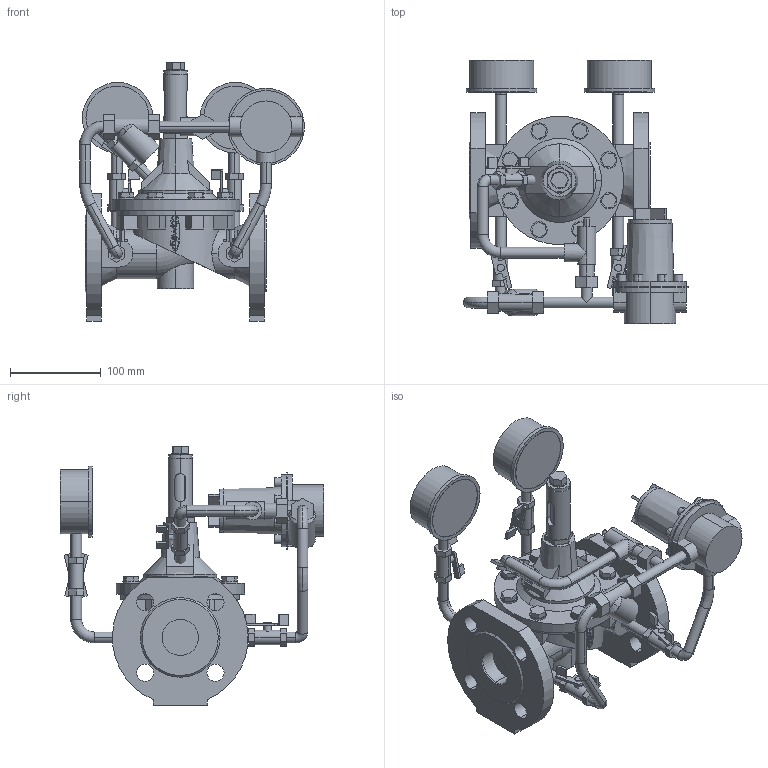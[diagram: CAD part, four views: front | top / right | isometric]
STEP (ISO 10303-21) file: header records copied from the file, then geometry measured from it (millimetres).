
FILE_DESCRIPTION(('STEP AP214'),'1');
FILE_NAME('S:/EK/USER/CAT6/3DHomepage_27-04-2012/CH-Produkte/1500/1500_PN16_DN40.STP','2013-01-18T08:35:29',(' '),(' '),'Spatial InterOp 3D',' ',' ');
FILE_SCHEMA(('automotive_design'));
Length unit declared in the file: millimetre
Products named in the file (175): 3D-Objekt
Bounding box: 248.45 x 290.92 x 285.8 mm (x, y, z)
Volume: 2678804.4 mm3; surface area: 582321.5 mm2
Topology: 175 solids, 175 shells, 1226 faces, 2636 edges, 1760 vertices
Faces by surface type: plane 853, cylinder 334, torus 20, cone 19
Entity records: 64272 total; most frequent: CARTESIAN_POINT 22957, DIRECTION 6181, ORIENTED_EDGE 5274, EDGE_CURVE 2637, AXIS2_PLACEMENT_3D 2175, LINE 1831, VECTOR 1831, VERTEX_POINT 1761
